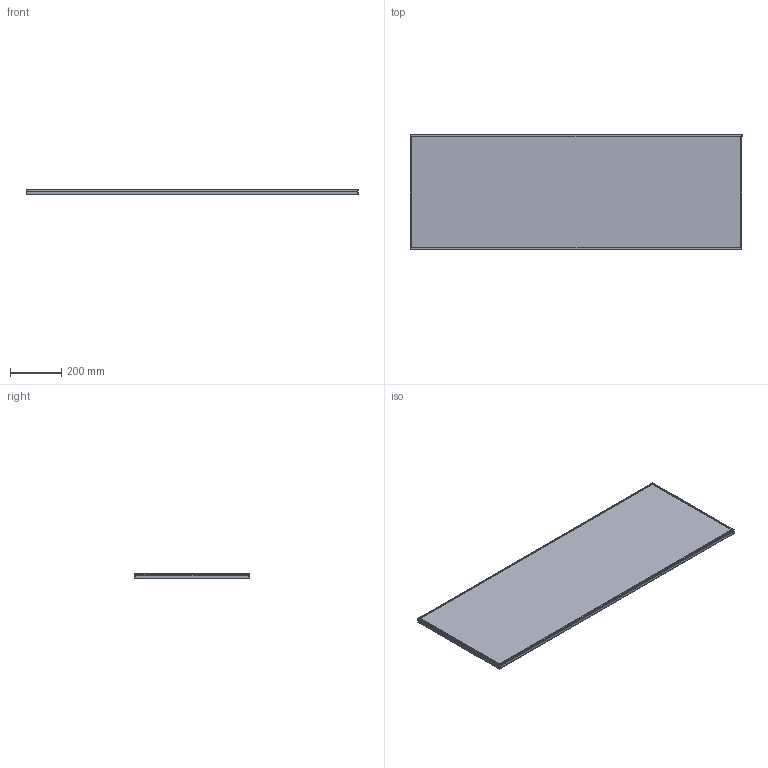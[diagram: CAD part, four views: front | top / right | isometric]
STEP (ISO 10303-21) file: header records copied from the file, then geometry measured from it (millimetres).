
FILE_DESCRIPTION (( 'STEP AP214' ), '1' );
FILE_NAME ('SM2C BREASEN.STEP', '2021-03-05T07:03:55', ( '' ), ( '' ), 'SwSTEP 2.0', 'SolidWorks 2020', '' );
FILE_SCHEMA (( 'AUTOMOTIVE_DESIGN' ));
Length unit declared in the file: millimetre
Products named in the file (5): SM2 Lustro 4_450x1300; Profil 6,7x19,5_1300; Profil 6,7x19,5_450; SM2C BREASEN; Zawieszka blaszana pion pozion 80x80
Assembly tree (8 placements, depth 2):
  SM2C BREASEN
    Profil 6,7x19,5_1300  x2
    Profil 6,7x19,5_450  x2
    SM2 Lustro 4_450x1300
    Zawieszka blaszana pion pozion 80x80  x3
Bounding box: 1300 x 450 x 19.5 mm (x, y, z)
Volume: 2570361.7 mm3; surface area: 1517567.1 mm2
Topology: 8 solids, 8 shells, 216 faces, 588 edges, 376 vertices
Faces by surface type: plane 152, cylinder 64
Entity records: 3016 total; most frequent: CARTESIAN_POINT 583, ORIENTED_EDGE 484, DIRECTION 440, EDGE_CURVE 242, LINE 190, VECTOR 190, VERTEX_POINT 156, AXIS2_PLACEMENT_3D 125
